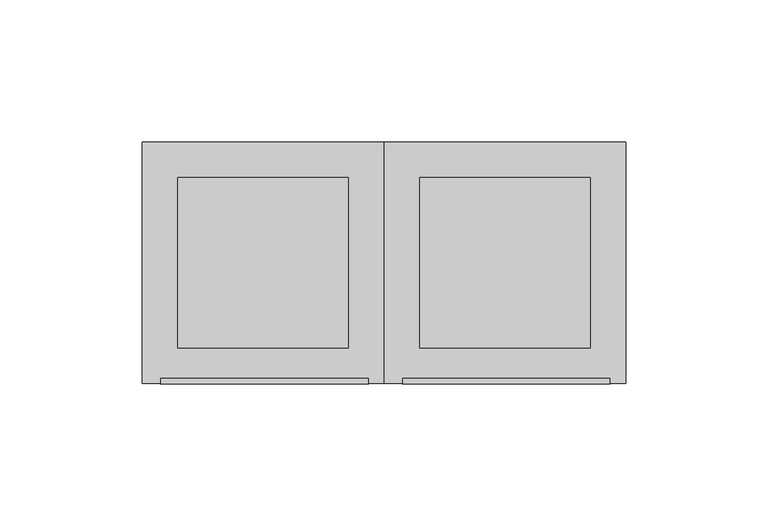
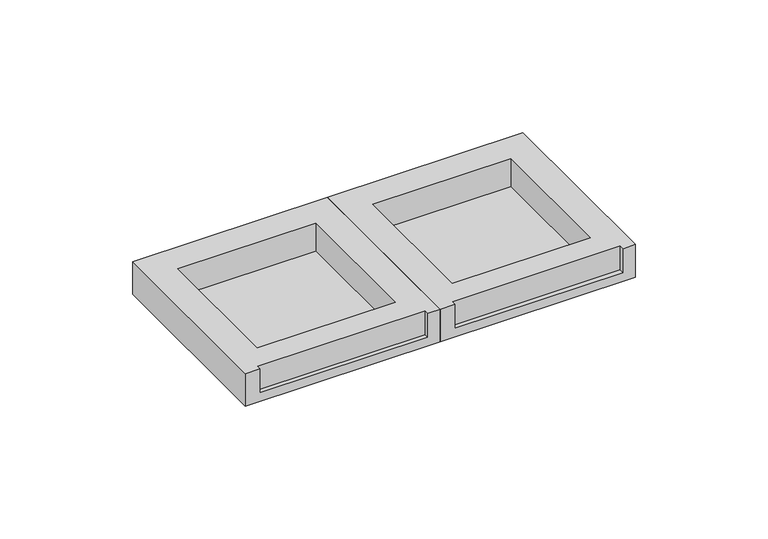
"""IFC4 building model written with IfcOpenShell, lengths in millimetres: duct fitting geometry, Суппорт универсальный - 2 поста - для кабель-каналов DLP - белый : 85мм."""

import ifcopenshell
import ifcopenshell.guid

model = None  # the IFC model being written
_history = None  # IfcOwnerHistory: only IFC2X3 demands one
_inside = {}  # id of a spatial element -> (the spatial element, [elements in it])
_under = {}  # id of a project, library or spatial element -> (it, [spatial elements below it])
_declared = {}  # id of a project -> (the project, [libraries it declares])
_typed = {}  # id of a type object -> (the type object, [elements of that type])
_made_of = {}  # id of a material, layer set ... -> (it, [elements and type objects made of it])


def new_model(schema):
    """Start an empty IFC model of exactly this schema.

    Asked for "IFC4X3", IfcOpenShell would pick the latest addendum, in which some entities
    have other attributes; the version numbers below select the first issue.
    IFC2X3 requires an IfcOwnerHistory on every rooted entity: one is made here for all.
    """
    global model, _history
    if schema == "IFC4X3":
        model = ifcopenshell.file(schema_version=(4, 3, 0, 0))
    else:
        model = ifcopenshell.file(schema=schema)
    _inside.clear()
    _under.clear()
    _declared.clear()
    _typed.clear()
    _made_of.clear()
    _history = None
    if model.schema == "IFC2X3":
        org = make("IfcOrganization", Name="unknown")
        user = make(
            "IfcPersonAndOrganization",
            ThePerson=make("IfcPerson", FamilyName="unknown"),
            TheOrganization=org,
        )
        app = make(
            "IfcApplication",
            ApplicationDeveloper=org,
            Version="unknown",
            ApplicationFullName="unknown",
            ApplicationIdentifier="unknown",
        )
        _history = make(
            "IfcOwnerHistory",
            OwningUser=user,
            OwningApplication=app,
            ChangeAction="ADDED",
            CreationDate=0,
        )
    return model


def make(cls, **values):
    """One entity of the class cls with the attributes given. An attribute that is None is left unset."""
    return model.create_entity(
        cls, **{name: value for name, value in values.items() if value is not None}
    )


def rooted(cls, **values):
    """An entity with a GlobalId (a new one), such as an element, a storey or a relation."""
    return make(cls, GlobalId=ifcopenshell.guid.new(), OwnerHistory=_history, **values)


def si_unit(unit_type, name, prefix=None):
    """IfcSIUnit, for example si_unit("LENGTHUNIT", "METRE", prefix="MILLI")."""
    return make("IfcSIUnit", UnitType=unit_type, Prefix=prefix, Name=name)


def assignment(units):
    """IfcUnitAssignment: the units of a project."""
    return None if units is None else make("IfcUnitAssignment", Units=units)


def point(xyz):
    """IfcCartesianPoint."""
    return None if xyz is None else make("IfcCartesianPoint", Coordinates=xyz)


def direction(xyz):
    """IfcDirection."""
    return None if xyz is None else make("IfcDirection", DirectionRatios=xyz)


def frame(location, z_axis=None, x_axis=None):
    """IfcAxis2Placement3D, a coordinate frame: its origin and axes. An axis left out is left unset."""
    return make(
        "IfcAxis2Placement3D",
        Location=point(location),
        Axis=direction(z_axis),
        RefDirection=direction(x_axis),
    )


def origin():
    """The frame at (0, 0, 0) with its axes left unset."""
    return frame((0.0, 0.0, 0.0))


def origin_with_axes():
    """The frame at (0, 0, 0) with the z axis (0, 0, 1) and the x axis (1, 0, 0) written out."""
    return frame((0.0, 0.0, 0.0), z_axis=(0.0, 0.0, 1.0), x_axis=(1.0, 0.0, 0.0))


def place(relative_to, where):
    """IfcLocalPlacement: puts the frame where relative to a parent placement (None: the world)."""
    return make(
        "IfcLocalPlacement", PlacementRelTo=relative_to, RelativePlacement=where
    )


def context(
    kind, dimensions, precision=None, world=None, true_north=None, identifier=None
):
    """IfcGeometricRepresentationContext, for example the 3D "Model" context."""
    return make(
        "IfcGeometricRepresentationContext",
        ContextIdentifier=identifier,
        ContextType=kind,
        CoordinateSpaceDimension=dimensions,
        Precision=precision,
        WorldCoordinateSystem=world,
        TrueNorth=true_north,
    )


def project(units=None, contexts=None):
    """IfcProject with its units and contexts."""
    return rooted(
        "IfcProject",
        Name="project",
        RepresentationContexts=contexts,
        UnitsInContext=assignment(units),
    )


def spatial(cls, under=None, at=None, **own):
    """A site, building, storey or space (cls), placed at a placement, below another one or the project."""
    s = rooted(cls, ObjectPlacement=at, **own)
    if under is not None:
        _under.setdefault(under.id(), (under, []))[1].append(s)
    return s


def polyline(points):
    """IfcPolyline through the points."""
    return make("IfcPolyline", Points=[point(p) for p in points])


def outline(outer, holes=None, kind="AREA"):
    """IfcArbitraryClosedProfileDef: a profile drawn as a closed curve; with holes, ...WithVoids."""
    if holes is None:
        return make("IfcArbitraryClosedProfileDef", ProfileType=kind, OuterCurve=outer)
    return make(
        "IfcArbitraryProfileDefWithVoids",
        ProfileType=kind,
        OuterCurve=outer,
        InnerCurves=holes,
    )


def extrude(swept, where, along, depth):
    """IfcExtrudedAreaSolid: the profile swept, set in the frame where, extruded along a direction by depth."""
    return make(
        "IfcExtrudedAreaSolid",
        SweptArea=swept,
        Position=where,
        ExtrudedDirection=direction(along),
        Depth=depth,
    )


def faces_of(points, faces, orient=None, outer=None):
    """IfcFace entities. A face is a list of loops; a loop is a list of indices into points, from 0.

    orient and outer hold one flag for each loop. By default every Orientation is true, the
    first loop of a face is its IfcFaceOuterBound and the others are IfcFaceBound.
    """
    made = []
    for i, loops in enumerate(faces):
        bounds = []
        for j, loop in enumerate(loops):
            is_outer = j == 0 if outer is None else outer[i][j]
            bounds.append(
                make(
                    "IfcFaceOuterBound" if is_outer else "IfcFaceBound",
                    Bound=make("IfcPolyLoop", Polygon=[points[k] for k in loop]),
                    Orientation=True if orient is None else orient[i][j],
                )
            )
        made.append(make("IfcFace", Bounds=bounds))
    return made


def faceted_brep(points, faces, orient=None, outer=None, voids=None):
    """IfcFacetedBrep: a solid bounded by flat faces; with voids (closed shells), ...WithVoids."""
    shared = [point(p) for p in points]
    hull = make("IfcClosedShell", CfsFaces=faces_of(shared, faces, orient, outer))
    if voids is None:
        return make("IfcFacetedBrep", Outer=hull)
    return make(
        "IfcFacetedBrepWithVoids",
        Outer=hull,
        Voids=[
            make(cls, CfsFaces=faces_of(shared, fs, o, b)) for cls, fs, o, b in voids
        ],
    )


def shape(context_of_items, identifier, shape_type, items):
    """IfcShapeRepresentation: the items that make up one representation, for example the "Body"."""
    return make(
        "IfcShapeRepresentation",
        ContextOfItems=context_of_items,
        RepresentationIdentifier=identifier,
        RepresentationType=shape_type,
        Items=items,
    )


def source(mapping_origin, context_of_items, identifier, shape_type, items):
    """IfcRepresentationMap: a shape defined once, which mapped items show again and again."""
    return make(
        "IfcRepresentationMap",
        MappingOrigin=mapping_origin,
        MappedRepresentation=shape(context_of_items, identifier, shape_type, items),
    )


def transform(
    local_origin,
    x_axis=None,
    y_axis=None,
    z_axis=None,
    scale=None,
    scale2=None,
    scale3=None,
    uniform=True,
):
    """IfcCartesianTransformationOperator3D, or its non-uniform kind. x_axis, y_axis, z_axis: its Axis1, 2, 3."""
    if uniform:
        return make(
            "IfcCartesianTransformationOperator3D",
            Axis1=direction(x_axis),
            Axis2=direction(y_axis),
            LocalOrigin=point(local_origin),
            Scale=scale,
            Axis3=direction(z_axis),
        )
    return make(
        "IfcCartesianTransformationOperator3DnonUniform",
        Axis1=direction(x_axis),
        Axis2=direction(y_axis),
        LocalOrigin=point(local_origin),
        Scale=scale,
        Axis3=direction(z_axis),
        Scale2=scale2,
        Scale3=scale3,
    )


def mapped(mapping_source, mapping_target):
    """IfcMappedItem: shows the shape of a source again, moved by a transform."""
    return make(
        "IfcMappedItem", MappingSource=mapping_source, MappingTarget=mapping_target
    )


def made_of(thing, what):
    """Note that an element or type object is made of a material, layer set ...; save() writes the relation."""
    if what is not None:
        _made_of.setdefault(what.id(), (what, []))[1].append(thing)
    return thing


def element(
    cls,
    number,
    at=None,
    inside=None,
    cuts=None,
    type_object=None,
    material=None,
    context=None,
    identifier="Body",
    shape_type=None,
    held_by="IfcProductDefinitionShape",
    body=None,
    shapes=None,
    **own,
):
    """One element of the class cls, such as IfcWall. Its Tag is "e" and its number.

    at: its placement. inside: the storey or other place that contains it. cuts: it is an
    opening in that element (IfcRelVoidsElement). A single representation is given by context,
    identifier, shape_type and body (its items); several are given by shapes. held_by: the class
    of the entity that holds the representations. save() writes the other relations.
    """
    e = rooted(cls, Tag="e%d" % number, ObjectPlacement=at, **own)
    if body is not None:
        shapes = [shape(context, identifier, shape_type, body)]
    if shapes is not None:
        e.Representation = make(held_by, Representations=shapes)
    if inside is not None:
        _inside.setdefault(inside.id(), (inside, []))[1].append(e)
    if cuts is not None:
        rooted(
            "IfcRelVoidsElement", RelatingBuildingElement=cuts, RelatedOpeningElement=e
        )
    if type_object is not None:
        _typed.setdefault(type_object.id(), (type_object, []))[1].append(e)
    return made_of(e, material)


def aggregate(whole, parts):
    """IfcRelAggregates: a whole, such as a stair, and the parts it consists of."""
    return rooted("IfcRelAggregates", RelatingObject=whole, RelatedObjects=parts)


def save(model, path):
    """Write the relations noted so far, then the file.

    IfcRelAggregates (storeys below a building ...), IfcRelContainedInSpatialStructure (elements
    in a storey), IfcRelDefinesByType, IfcRelAssociatesMaterial and IfcRelDeclares: one each for
    every whole, place, type object, material and project.
    """
    for whole, parts in _under.values():
        aggregate(whole, parts)
    for where, things in _inside.values():
        rooted(
            "IfcRelContainedInSpatialStructure",
            RelatedElements=things,
            RelatingStructure=where,
        )
    for kind, things in _typed.values():
        rooted("IfcRelDefinesByType", RelatedObjects=things, RelatingType=kind)
    for what, things in _made_of.values():
        rooted("IfcRelAssociatesMaterial", RelatedObjects=things, RelatingMaterial=what)
    for by, libraries in _declared.values():
        rooted("IfcRelDeclares", RelatingContext=by, RelatedDefinitions=libraries)
    model.write(path)


def duct_fitting_5aa6bedc(model_context):
    return source(origin(), model_context, "Body", "SolidModel", [
        extrude(outline(polyline([(115.0, -30.0), (55.0, -30.0), (55.0, 30.0), (115.0, 30.0), (115.0, -30.0)])), origin_with_axes(), (0.0, 0.0, 1.0), 2.0),
        faceted_brep([(127.5, -42.5, 15.0), (127.5, 42.5, 15.0), (42.5, 42.5, 15.0), (42.5, -42.5, 15.0), (48.8673154, -42.5, 15.0), (48.8673154, -40.5, 15.0), (122.0913444, -40.5, 15.0), (122.0913444, -42.5, 15.0), (115.0, -30.0, 15.0), (55.0, -30.0, 15.0), (55.0, 30.0, 15.0), (115.0, 30.0, 15.0), (127.5, -42.5, 0.0), (42.5, -42.5, 0.0), (42.5, 42.5, 0.0), (127.5, 42.5, 0.0), (115.0, -30.0, 0.0), (115.0, 30.0, 0.0), (55.0, 30.0, 0.0), (55.0, -30.0, 0.0), (122.0913444, -42.5, 3.9555715), (48.8673154, -42.5, 3.9555715), (122.0913444, -40.5, 3.9555715), (48.8673154, -40.5, 3.9555715)], [[[0, 1, 2, 3, 4, 5, 6, 7], [8, 9, 10, 11]], [[12, 13, 14, 15], [16, 17, 18, 19]], [[1, 0, 12, 15]], [[2, 1, 15, 14]], [[3, 2, 14, 13]], [[13, 12, 0, 7, 20, 21, 4, 3]], [[9, 8, 16, 19]], [[10, 9, 19, 18]], [[11, 10, 18, 17]], [[8, 11, 17, 16]], [[6, 22, 20, 7]], [[22, 23, 21, 20]], [[23, 5, 4, 21]], [[5, 23, 22, 6]]]),
        extrude(outline(polyline([(30.0, -30.0), (-30.0, -30.0), (-30.0, 30.0), (30.0, 30.0), (30.0, -30.0)])), origin_with_axes(), (0.0, 0.0, 1.0), 2.0),
        faceted_brep([(42.5, -42.5, 15.0), (42.5, 42.5, 15.0), (-42.5, 42.5, 15.0), (-42.5, -42.5, 15.0), (-36.1326846, -42.5, 15.0), (-36.1326846, -40.5, 15.0), (37.0913444, -40.5, 15.0), (37.0913444, -42.5, 15.0), (30.0, -30.0, 15.0), (-30.0, -30.0, 15.0), (-30.0, 30.0, 15.0), (30.0, 30.0, 15.0), (42.5, -42.5, 0.0), (-42.5, -42.5, 0.0), (-42.5, 42.5, 0.0), (42.5, 42.5, 0.0), (30.0, -30.0, 0.0), (30.0, 30.0, 0.0), (-30.0, 30.0, 0.0), (-30.0, -30.0, 0.0), (37.0913444, -42.5, 3.9555715), (-36.1326846, -42.5, 3.9555715), (37.0913444, -40.5, 3.9555715), (-36.1326846, -40.5, 3.9555715)], [[[0, 1, 2, 3, 4, 5, 6, 7], [8, 9, 10, 11]], [[12, 13, 14, 15], [16, 17, 18, 19]], [[1, 0, 12, 15]], [[2, 1, 15, 14]], [[3, 2, 14, 13]], [[13, 12, 0, 7, 20, 21, 4, 3]], [[9, 8, 16, 19]], [[10, 9, 19, 18]], [[11, 10, 18, 17]], [[8, 11, 17, 16]], [[6, 22, 20, 7]], [[22, 23, 21, 20]], [[23, 5, 4, 21]], [[5, 23, 22, 6]]]),
    ])


if __name__ == "__main__":
    model = new_model("IFC4")
    model_context = context("Model", 3, world=origin())
    ifc_project = project(units=[si_unit("LENGTHUNIT", "METRE", prefix="MILLI")], contexts=[model_context])
    site = spatial("IfcSite", under=ifc_project)
    building = spatial("IfcBuilding", under=site)
    placement = place(None, origin())
    duct_fitting_shape = duct_fitting_5aa6bedc(model_context)
    element("IfcDuctFitting", 1, ObjectType="Суппорт универсальный - 2 поста - для кабель-каналов DLP - белый : 85мм", at=placement, inside=building, context=model_context, shape_type="MappedRepresentation", body=[
        mapped(duct_fitting_shape, transform((0.0, 0.0, 0.0), x_axis=(1.0, 0.0, 0.0), y_axis=(0.0, 1.0, 0.0), z_axis=(0.0, 0.0, 1.0))),
    ])
    save(model, "model.ifc")
